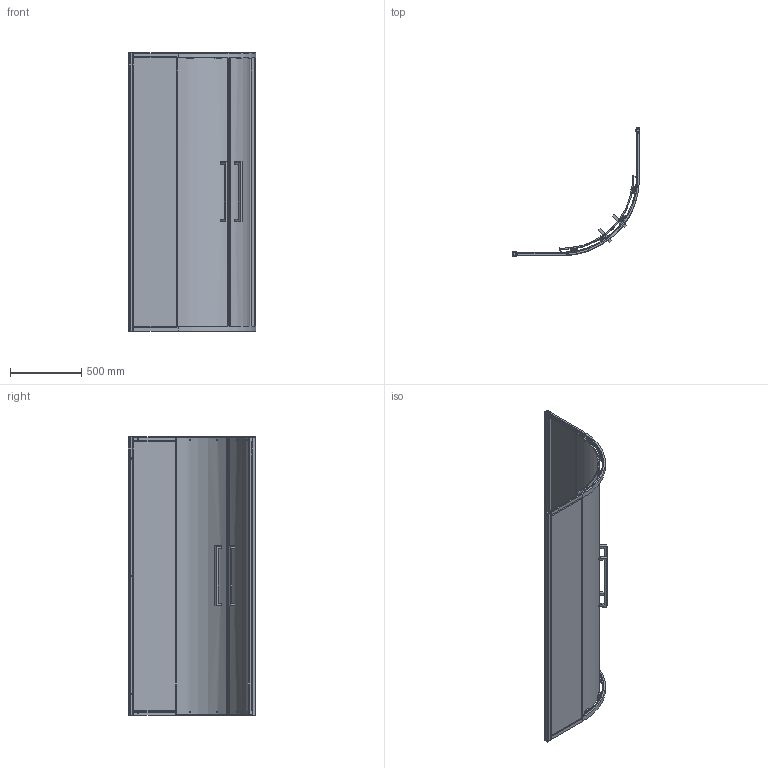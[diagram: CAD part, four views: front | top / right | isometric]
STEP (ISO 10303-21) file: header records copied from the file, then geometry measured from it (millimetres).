
FILE_DESCRIPTION((''),'2;1');
FILE_NAME('00-C617022_ASM','2022-05-20T17:33:14',('Administrator'),(''),'CREO PARAMETRIC BY PTC INC, 2017110','CREO PARAMETRIC BY PTC INC, 2017110','');
FILE_SCHEMA(('CONFIG_CONTROL_DESIGN'));
Length unit declared in the file: millimetre
Products named in the file (36): 00; YTZG_ST4X10; 28Z05-1-; 28Z05-2-; 000_ASM; A00; 000; _0001; 0008; _AF_ASM; _0002; 0009; _A_ASM; 10001; C00_ASM; 0013; 1-N000; _N1000; 0015; 001_ASM; 00-C617022_ASM
Assembly tree (67 placements, depth 4):
  00-C617022_ASM
    000_ASM  x2
      00
      00
      000_ASM
        YTZG_ST4X10
        28Z05-1-
        28Z05-2-
    A00  x2
    000  x2
    C00_ASM
      00
      _AF_ASM
        _0001
        00
        0008
      _AF_ASM
        _0001
        00
        0008
      _A_ASM
        _0002
        0009
        00
      _A_ASM
        _0002
        0009
        00
      10001
      00
      00
    C00_ASM
      00
      _AF_ASM
        _0001
        00
        0008
      _AF_ASM
        _0001
        00
        0008
      _A_ASM
        _0002
        0009
        00
      _A_ASM
        _0002
        0009
        00
      10001
      00
      00
    0013  x2
    1-N000  x2
    _N1000  x2
    001_ASM  x2
      0015
      YTZG_ST4X10
      00
Bounding box: 894.7 x 894.5 x 1953 mm (x, y, z)
Volume: 30652492.2 mm3; surface area: 7876362.7 mm2
Topology: 70 solids, 70 shells, 1908 faces, 4472 edges, 2776 vertices
Faces by surface type: plane 848, cylinder 700, torus 164, bspline 92, sphere 56, cone 48
Entity records: 21380 total; most frequent: CARTESIAN_POINT 5222, DIRECTION 3501, ORIENTED_EDGE 3032, EDGE_CURVE 1516, AXIS2_PLACEMENT_3D 1298, VERTEX_POINT 954, VECTOR 905, LINE 905
